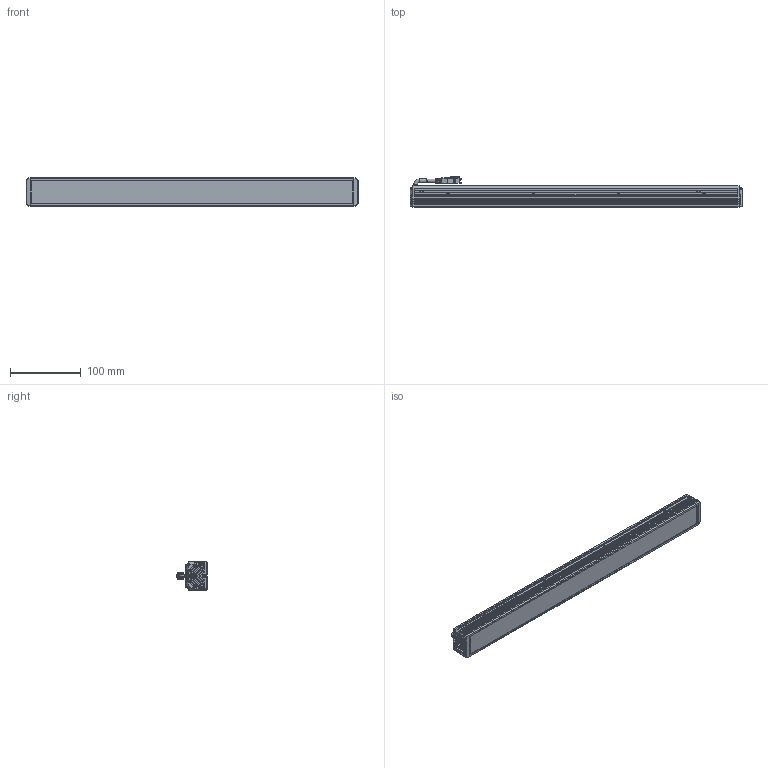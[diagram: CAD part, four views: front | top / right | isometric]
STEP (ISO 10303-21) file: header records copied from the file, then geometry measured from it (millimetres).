
FILE_DESCRIPTION((''),'2;1');
FILE_NAME('MV-LLDS-H-500-40-W-PL_ASM','2024-04-08T14:17:25',('huguozhe'),(''),'CREO PARAMETRIC BY PTC INC, 2020044','CREO PARAMETRIC BY PTC INC, 2020044','');
FILE_SCHEMA(('AUTOMOTIVE_DESIGN { 1 0 10303 214 1 1 1 1 }'));
Length unit declared in the file: millimetre
Products named in the file (15): DE-15-001235; DE-15-001234_ASM; DE-15-000510; DE-15-000509_ASM; DE-12-002350; TIP-M3X4-4_5X5-SO-ET-07061033; DE-12-002350_ASM; DE-12-001599; SC-KM2X6-BNI-GB819; XIANLAN_HEAD; CABLE_HEAD; CABLE_HEAD_ASM_ASM; 190100852; SC-PM2X6B-JMP; MV-LLDS-H-500-40-W-PL_ASM
Assembly tree (33 placements, depth 3):
  MV-LLDS-H-500-40-W-PL_ASM
    DE-15-001234_ASM
      DE-15-001235
    DE-15-000509_ASM
      DE-15-000510
    DE-12-002350_ASM  x2
      DE-12-002350
      TIP-M3X4-4_5X5-SO-ET-07061033
    DE-12-001599
    SC-KM2X6-BNI-GB819  x4
    CABLE_HEAD_ASM_ASM
      XIANLAN_HEAD
      CABLE_HEAD
    190100852  x8
    SC-PM2X6B-JMP  x8
Bounding box: 468 x 42.65 x 40 mm (x, y, z)
Volume: 435149.4 mm3; surface area: 223699.5 mm2
Topology: 31 solids, 67 shells, 2821 faces, 7293 edges, 4595 vertices
Faces by surface type: plane 1364, cylinder 589, bspline 472, cone 337, torus 50, sphere 8, extrusion 1
Entity records: 48882 total; most frequent: CARTESIAN_POINT 11374, ORIENTED_EDGE 6304, DIRECTION 6079, EDGE_CURVE 3184, VERTEX_POINT 2042, VECTOR 2037, LINE 2036, AXIS2_PLACEMENT_3D 2021
